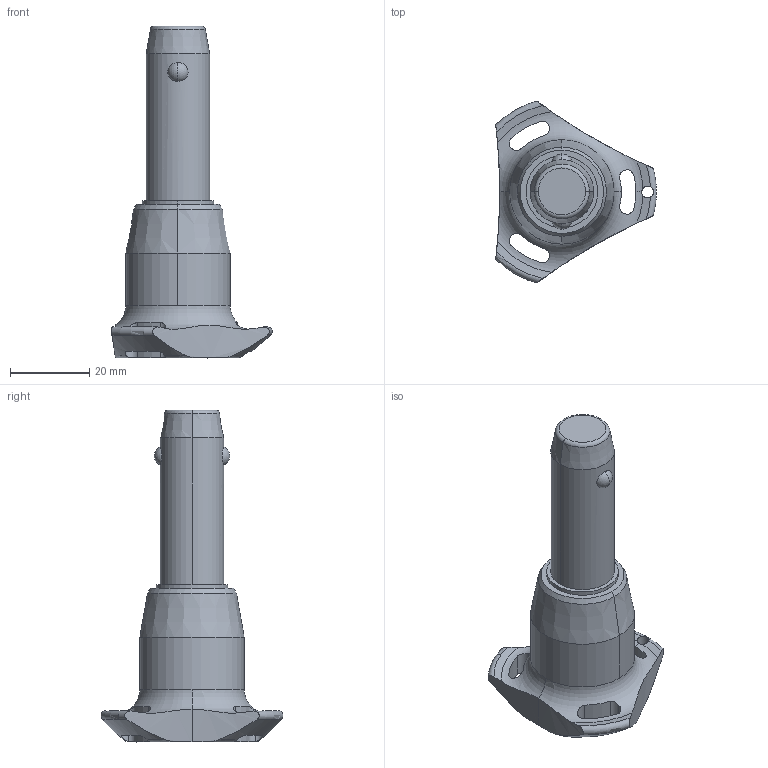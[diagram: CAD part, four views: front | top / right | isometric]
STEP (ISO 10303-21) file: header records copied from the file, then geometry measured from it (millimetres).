
FILE_DESCRIPTION (( 'STEP AP203' ), '1' );
FILE_NAME ('QR1714.M16-030-S.step', '2025-11-12T10:19:01', ( '' ), ( '' ), 'SwSTEP 2.0', 'SolidWorks 2019', '' );
FILE_SCHEMA (( 'CONFIG_CONTROL_DESIGN' ));
Length unit declared in the file: millimetre
Products named in the file (1): QR1714.M16-030-S
Bounding box: 40.5 x 45.88 x 83.7 mm (x, y, z)
Volume: 31128.5 mm3; surface area: 8166.5 mm2
Topology: 1 solids, 1 shells, 65 faces, 180 edges, 115 vertices
Faces by surface type: cylinder 30, cone 14, torus 11, sphere 6, plane 4
Entity records: 2890 total; most frequent: CARTESIAN_POINT 1185, ORIENTED_EDGE 360, DIRECTION 333, EDGE_CURVE 180, AXIS2_PLACEMENT_3D 149, VERTEX_POINT 115, CIRCLE 83, EDGE_LOOP 71
